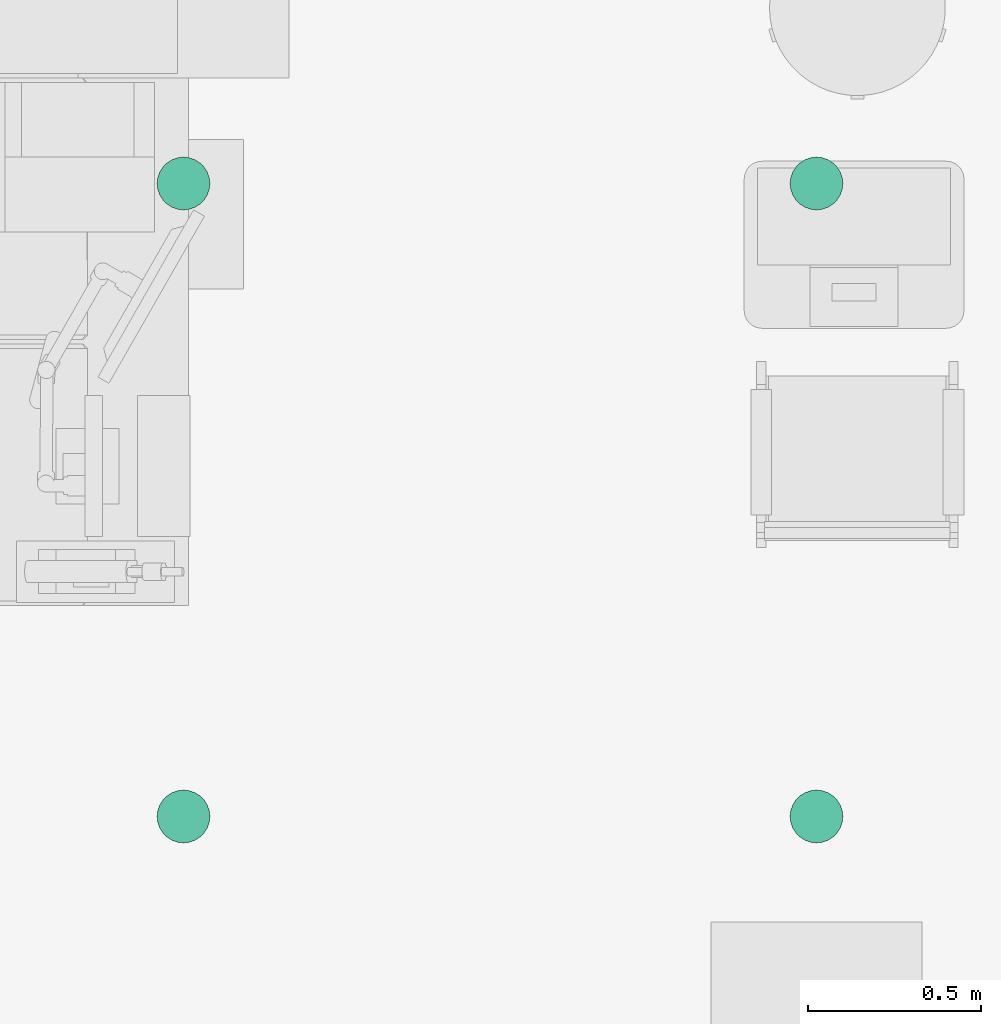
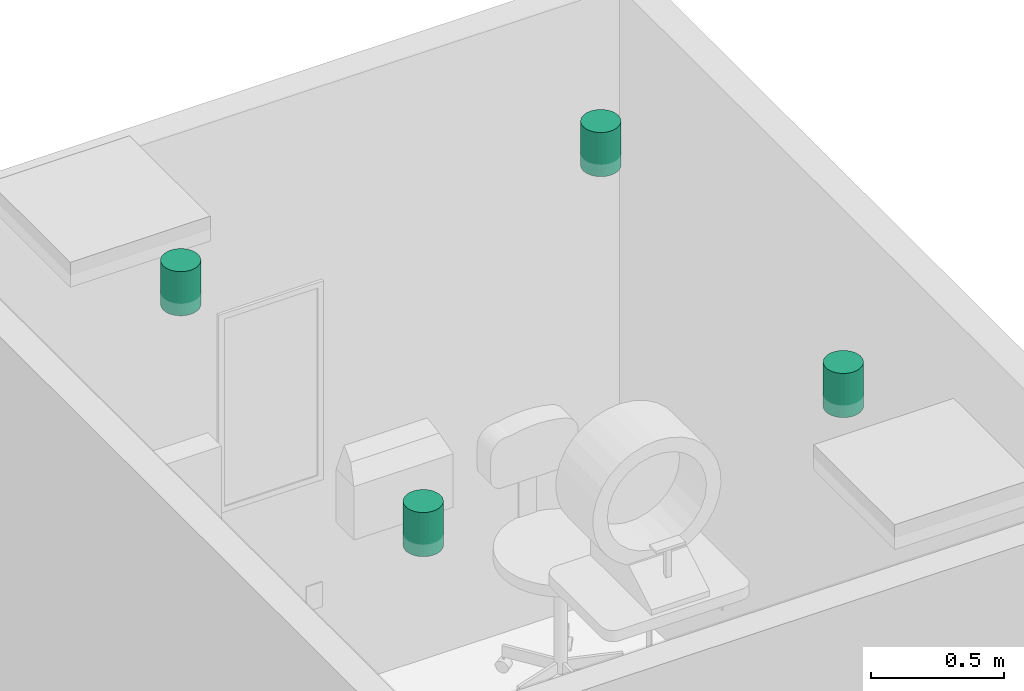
# One storey, part 4 of 11: 4 flow terminals.
"""IFC2X3 building model written with IfcOpenShell, lengths in feet."""

from ifc_helpers import new_model, entity, si_unit, converted_unit, derived_unit, direction, frame, frame_2d, origin, place, context, subcontext, project, spatial, circle, extrude, source, transform, mapped, type_object, type_shapes, element, save


model = new_model("IFC2X3")

# Units and contexts
model_context = context("Model", 3, precision=0.0001, world=origin(), true_north=direction((6.12303176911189e-17, 1.0)))
body_context = subcontext(model_context, "Body", "Model", "MODEL_VIEW")
ifc_project = project(units=[converted_unit("LENGTHUNIT", "FOOT", entity("IfcRatioMeasure", 0.3048), si_unit("LENGTHUNIT", "METRE"), dimensions=[1, 0, 0, 0, 0, 0, 0]), converted_unit("AREAUNIT", "SQUARE FOOT", entity("IfcRatioMeasure", 0.09290304), si_unit("AREAUNIT", "SQUARE_METRE"), dimensions=[2, 0, 0, 0, 0, 0, 0]), converted_unit("VOLUMEUNIT", "CUBIC FOOT", entity("IfcRatioMeasure", 0.028316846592), si_unit("VOLUMEUNIT", "CUBIC_METRE"), dimensions=[3, 0, 0, 0, 0, 0, 0]), converted_unit("PLANEANGLEUNIT", "DEGREE", entity("IfcRatioMeasure", 0.0174532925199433), si_unit("PLANEANGLEUNIT", "RADIAN"), dimensions=[0, 0, 0, 0, 0, 0, 0]), si_unit("MASSUNIT", "GRAM", prefix="KILO"), derived_unit("MASSDENSITYUNIT", [(si_unit("MASSUNIT", "GRAM", prefix="KILO"), 1), (si_unit("LENGTHUNIT", "METRE"), -3)]), si_unit("TIMEUNIT", "SECOND"), si_unit("FREQUENCYUNIT", "HERTZ"), si_unit("THERMODYNAMICTEMPERATUREUNIT", "DEGREE_CELSIUS"), derived_unit("THERMALTRANSMITTANCEUNIT", [(si_unit("MASSUNIT", "GRAM", prefix="KILO"), 1), (si_unit("THERMODYNAMICTEMPERATUREUNIT", "KELVIN"), -1), (si_unit("TIMEUNIT", "SECOND"), -3)]), derived_unit("VOLUMETRICFLOWRATEUNIT", [(si_unit("LENGTHUNIT", "METRE"), 3), (si_unit("TIMEUNIT", "SECOND"), -1)]), si_unit("ELECTRICCURRENTUNIT", "AMPERE"), si_unit("ELECTRICVOLTAGEUNIT", "VOLT"), si_unit("POWERUNIT", "WATT"), si_unit("FORCEUNIT", "NEWTON"), si_unit("ILLUMINANCEUNIT", "LUX"), si_unit("LUMINOUSFLUXUNIT", "LUMEN"), si_unit("LUMINOUSINTENSITYUNIT", "CANDELA"), derived_unit("USERDEFINED", [(si_unit("MASSUNIT", "GRAM", prefix="KILO"), -1), (si_unit("LENGTHUNIT", "METRE"), -2), (si_unit("TIMEUNIT", "SECOND"), 3), (si_unit("LUMINOUSFLUXUNIT", "LUMEN"), 1)]), derived_unit("LINEARVELOCITYUNIT", [(si_unit("LENGTHUNIT", "METRE"), 1), (si_unit("TIMEUNIT", "SECOND"), -1)]), si_unit("PRESSUREUNIT", "PASCAL"), derived_unit("USERDEFINED", [(si_unit("LENGTHUNIT", "METRE"), -2), (si_unit("MASSUNIT", "GRAM", prefix="KILO"), 1), (si_unit("TIMEUNIT", "SECOND"), -2)])], contexts=[model_context])

# Site, building, storey, space
site_placement = place(None, origin())
site = spatial("IfcSite", under=ifc_project, at=site_placement, Name="Default", CompositionType="ELEMENT")
building_placement = place(site_placement, origin())
building = spatial("IfcBuilding", under=site, at=building_placement, Name="EYE CLINIC:  OPTHALMOLOGY AND OPTOMETRY SERVICES (Ch. 233)", CompositionType="ELEMENT")
storey_placement = place(building_placement, origin())
storey = spatial("IfcBuildingStorey", under=building, at=storey_placement, Name="DATUM", CompositionType="ELEMENT", Elevation=0.0)
space_placement = place(storey_placement, origin())
space = spatial("IfcSpace", under=storey, at=space_placement, Name="(OPVF2)", CompositionType="ELEMENT", InteriorOrExteriorSpace="INTERNAL")

# Flow terminals
light_fixture_type = type_object("IfcLightFixtureType", Name="6\"", PredefinedType="NOTDEFINED")
shared_shape = source(origin(), body_context, "Body", "SweptSolid", [
    extrude(circle(Radius=0.25, at=frame_2d((0.0, -3.88578058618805e-16), x_axis=(1.0, 0.0))), frame((0.132132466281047, -0.159583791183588, 7.99242651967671)), (0.0, 0.0, 1.0), 0.666666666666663),
])
type_shapes(light_fixture_type, [shared_shape])
for number, where in (
    (1, (191.507636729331, 26.1703344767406, 1.00757348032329)),
    (2, (191.507636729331, 20.1703344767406, 1.00757348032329)),
    (3, (197.507636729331, 26.1703344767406, 1.00757348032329)),
    (4, (197.507636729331, 20.1703344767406, 1.00757348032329)),
):
    element("IfcFlowTerminal", number, at=place(space_placement, frame(where)), inside=space, type_object=light_fixture_type, Name="Downlight - Recessed Can:6\"", ObjectType="6\"", context=body_context, shape_type="MappedRepresentation", body=[
        mapped(shared_shape, transform((0.0, 0.0, 0.0), scale=1.0)),
    ])

save(model, "model.ifc")
